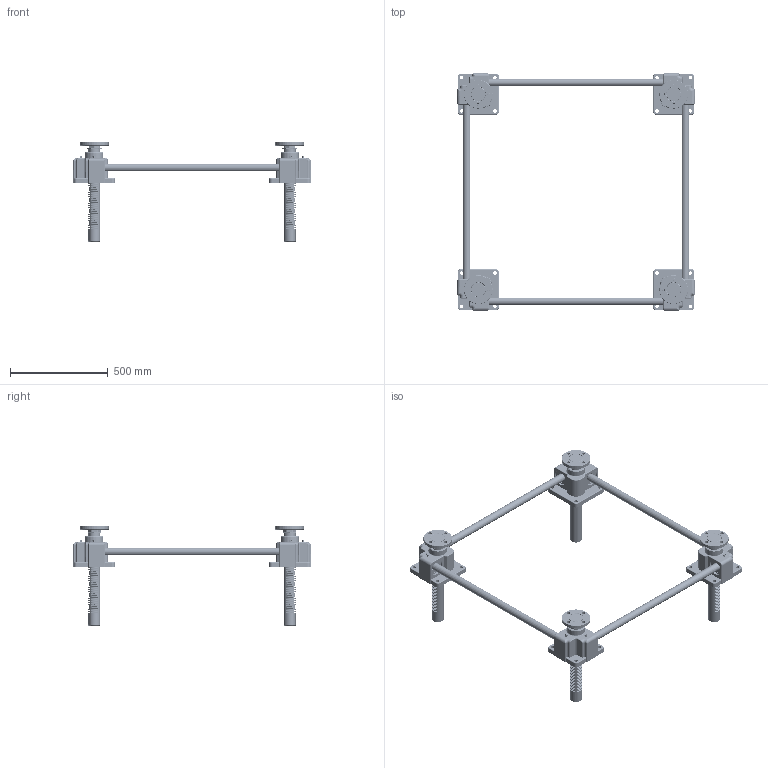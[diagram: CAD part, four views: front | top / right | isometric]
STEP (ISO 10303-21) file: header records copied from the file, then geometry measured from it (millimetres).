
FILE_DESCRIPTION(('STEP AP203'),'1');
FILE_NAME('SP20000F-1000x1000-300ST.stp','2016-08-05T05:17:35',(' '),(' '),'Spatial InterOp 3D',' ',' ');
FILE_SCHEMA(('CONFIG_CONTROL_DESIGN'));
Length unit declared in the file: millimetre
Products named in the file (88): SP20000F-1000x1000-300ST; Rack Gear(SP-20000F); Flange.1-Part; Flange.1; Joint.1; Nut.1; Flange.2-Part; Flange.2; Joint.2; Nut.2; Flange.3-Part; Flange.3; Joint.3; Nut.3; Flange.4-Part; Flange.4; Joint.4; Nut.4; Body.1-Part; #2429; #2446; SnapRing-78Pie; SnapRing-83.5Pie; Du Bush; Nipple; Gear Box.1(NSP-20000); RJ05-4SCJ-610X600-100ST_CAP; LABEL-B.1; ___; 파트18; __; Body.2-Part; #2850; #2867; Gear Box.2(NSP-20000); Body.3-Part; #3135; #3152; Gear Box.3(NSP-20000); Body.4-Part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
Assembly tree (92 placements, depth 6):
  SP20000F-1000x1000-300ST
    Rack Gear(SP-20000F)  x4
    Flange.1-Part
      Flange.1
      Joint.1
      Nut.1
    Flange.2-Part
      Flange.2
      Joint.2
      Nut.2
    Flange.3-Part
      Flange.3
      Joint.3
      Nut.3
    Flange.4-Part
      Flange.4
      Joint.4
      Nut.4
    Body.1-Part
      #2429
      #2446
      SnapRing-78Pie
      SnapRing-78Pie
      SnapRing-83.5Pie
      SnapRing-83.5Pie
      Du Bush
      Du Bush
      Nipple
      Nipple
      Gear Box.1(NSP-20000)
      __
        ___
          RJ05-4SCJ-610X600-100ST_CAP
            LABEL-B.1
          파트18
    Body.2-Part
      Nipple
      Nipple
      SnapRing-78Pie
      SnapRing-78Pie
      SnapRing-83.5Pie
      SnapRing-83.5Pie
      Du Bush
      Du Bush
      #2850
      #2867
      Gear Box.2(NSP-20000)
      __
        ___
          RJ05-4SCJ-610X600-100ST_CAP
            LABEL-B.1
          파트18
    Body.3-Part
      Nipple
      Nipple
      SnapRing-78Pie
      SnapRing-78Pie
      SnapRing-83.5Pie
      SnapRing-83.5Pie
      Du Bush
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Bounding box: 1216.5 x 1216.5 x 510 mm (x, y, z)
Volume: 19817008.4 mm3; surface area: 2746812.4 mm2
Topology: 100 solids, 100 shells, 10584 faces, 29068 edges, 18668 vertices
Faces by surface type: plane 8400, cylinder 1284, sphere 352, torus 264, cone 196, bspline 64, revolution 24
Full cylindrical faces by diameter (mm): 4.379 x16, 4.69 x16, 5.6 x8, 8 x8, 9.886 x8, 18 x32, 30 x8, 38 x4, 40 x12, 44 x8, 45 x8, 48 x4, 49.543 x16, 60 x12, 64 x8, 65 x4, 70 x16, 70.313 x16, 73.5 x4, 75 x12, 78 x8, 80 x16, 80.4 x8, 83.5 x8, 94 x4, 147 x4
Entity records: 320276 total; most frequent: CARTESIAN_POINT 68325, ORIENTED_EDGE 52470, DIRECTION 48572, EDGE_CURVE 26235, LINE 22084, VECTOR 22084, VERTEX_POINT 17251, AXIS2_PLACEMENT_3D 13232
